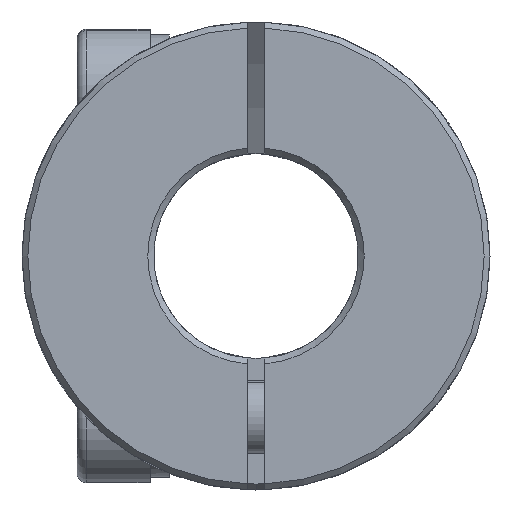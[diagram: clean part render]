
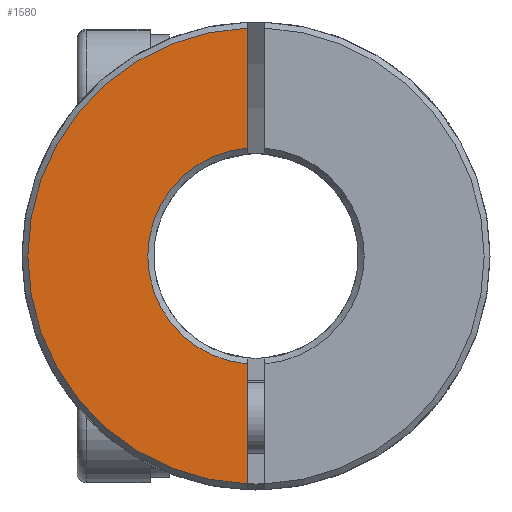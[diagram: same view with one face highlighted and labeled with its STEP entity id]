
A CAD part, front view. The second image highlights one B-rep face of the part: STEP entity #1580.
In plain terms, the highlighted planar face has unit normal (0, -1, 0).
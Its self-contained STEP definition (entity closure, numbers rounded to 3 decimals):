
#37 = AXIS2_PLACEMENT_3D ( 'NONE', #3303, #883, #3901 ) ;
#59 = ORIENTED_EDGE ( 'NONE', *, *, #4600, .F. ) ;
#305 = CARTESIAN_POINT ( 'NONE',  ( -0.3, -15.02, 7.794 ) ) ;
#630 = DIRECTION ( 'NONE',  ( 0., 0., 1. ) ) ;
#883 = DIRECTION ( 'NONE',  ( 0., 1., 0. ) ) ;
#1475 = DIRECTION ( 'NONE',  ( 0., -1., 0. ) ) ;
#1547 = EDGE_CURVE ( 'NONE', #5588, #5539, #2856, .T. ) ;
#1580 = ADVANCED_FACE ( 'NONE', ( #6398 ), #5098, .F. ) ;
#1686 = LINE ( 'NONE', #5765, #5838 ) ;
#1783 = CARTESIAN_POINT ( 'NONE',  ( 0., -15.02, 0. ) ) ;
#2035 = AXIS2_PLACEMENT_3D ( 'NONE', #5067, #1475, #5600 ) ;
#2214 = VERTEX_POINT ( 'NONE', #2274 ) ;
#2274 = CARTESIAN_POINT ( 'NONE',  ( -0.3, -15.02, 3.688 ) ) ;
#2856 = LINE ( 'NONE', #6282, #3779 ) ;
#2956 = EDGE_CURVE ( 'NONE', #5588, #2214, #4822, .T. ) ;
#3078 = AXIS2_PLACEMENT_3D ( 'NONE', #1783, #7106, #630 ) ;
#3251 = DIRECTION ( 'NONE',  ( 0., 0., -1. ) ) ;
#3303 = CARTESIAN_POINT ( 'NONE',  ( 0., -15.02, 0. ) ) ;
#3777 = CIRCLE ( 'NONE', #2035, 7.8 ) ;
#3779 = VECTOR ( 'NONE', #6885, 1000. ) ;
#3901 = DIRECTION ( 'NONE',  ( 0., 0., 1. ) ) ;
#3920 = ORIENTED_EDGE ( 'NONE', *, *, #2956, .T. ) ;
#4055 = EDGE_CURVE ( 'NONE', #5856, #5539, #3777, .T. ) ;
#4291 = ORIENTED_EDGE ( 'NONE', *, *, #1547, .F. ) ;
#4600 = EDGE_CURVE ( 'NONE', #5856, #2214, #1686, .T. ) ;
#4822 = CIRCLE ( 'NONE', #3078, 3.7 ) ;
#4879 = CARTESIAN_POINT ( 'NONE',  ( -0.3, -15.02, -7.794 ) ) ;
#5067 = CARTESIAN_POINT ( 'NONE',  ( 0., -15.02, 0. ) ) ;
#5098 = PLANE ( 'NONE',  #37 ) ;
#5539 = VERTEX_POINT ( 'NONE', #4879 ) ;
#5558 = ORIENTED_EDGE ( 'NONE', *, *, #4055, .T. ) ;
#5588 = VERTEX_POINT ( 'NONE', #6083 ) ;
#5600 = DIRECTION ( 'NONE',  ( 0., 0., 1. ) ) ;
#5765 = CARTESIAN_POINT ( 'NONE',  ( -0.3, -15.02, 0. ) ) ;
#5838 = VECTOR ( 'NONE', #3251, 1000. ) ;
#5856 = VERTEX_POINT ( 'NONE', #305 ) ;
#6083 = CARTESIAN_POINT ( 'NONE',  ( -0.3, -15.02, -3.688 ) ) ;
#6282 = CARTESIAN_POINT ( 'NONE',  ( -0.3, -15.02, 0. ) ) ;
#6398 = FACE_OUTER_BOUND ( 'NONE', #7102, .T. ) ;
#6885 = DIRECTION ( 'NONE',  ( 0., 0., -1. ) ) ;
#7102 = EDGE_LOOP ( 'NONE', ( #59, #5558, #4291, #3920 ) ) ;
#7106 = DIRECTION ( 'NONE',  ( 0., 1., 0. ) ) ;
